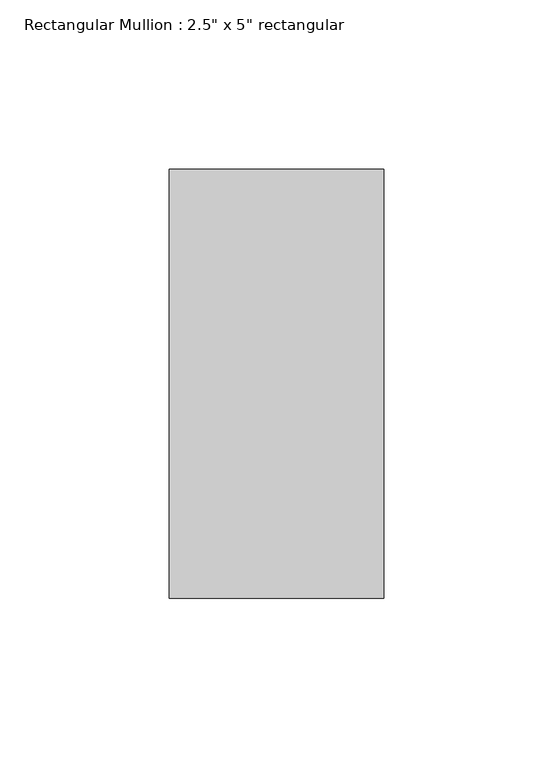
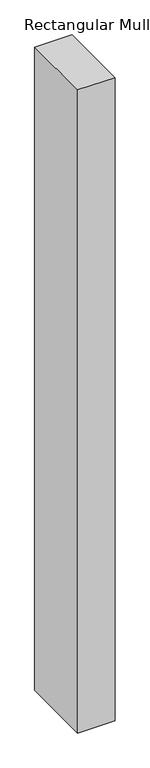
"""IFC4 building model written with IfcOpenShell, lengths in millimetres: member geometry."""

from ifc_helpers import new_model, si_unit, frame, origin, place, context, project, spatial, polyline, outline, extrude, source, transform, mapped, element, save


def member_b74dad20(model_context):
    return source(origin(), model_context, "Body", "SweptSolid", [
        extrude(outline(polyline([(0.0, 50.8), (0.0, -76.2), (-63.5, -76.2), (-63.5, 50.8), (0.0, 50.8)])), frame((0.0, 0.0, -1158.9048909), z_axis=(0.0, 0.0, 1.0), x_axis=(1.0, 0.0, 0.0)), (0.0, 0.0, 1.0), 1158.9048909),
    ])


if __name__ == "__main__":
    model = new_model("IFC4")
    model_context = context("Model", 3, world=origin())
    ifc_project = project(units=[si_unit("LENGTHUNIT", "METRE", prefix="MILLI")], contexts=[model_context])
    site = spatial("IfcSite", under=ifc_project)
    building = spatial("IfcBuilding", under=site)
    placement = place(None, origin())
    member_shape = member_b74dad20(model_context)
    element("IfcMember", 1, ObjectType="Rectangular Mullion : 2.5\" x 5\" rectangular", at=placement, inside=building, context=model_context, shape_type="MappedRepresentation", body=[
        mapped(member_shape, transform((0.0, 0.0, 0.0), x_axis=(1.0, 0.0, 0.0), y_axis=(0.0, 1.0, 0.0), z_axis=(0.0, 0.0, 1.0))),
    ])
    save(model, "model.ifc")
